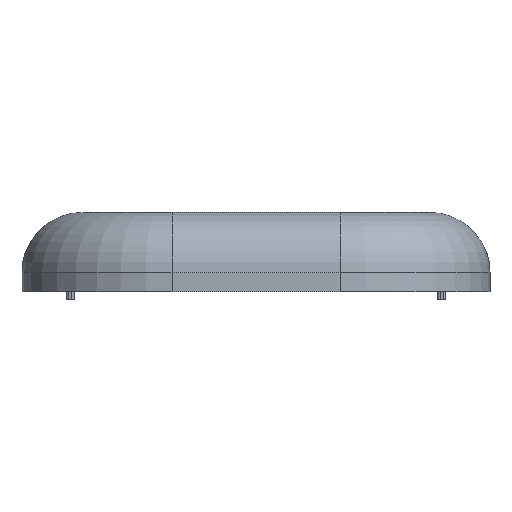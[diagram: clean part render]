
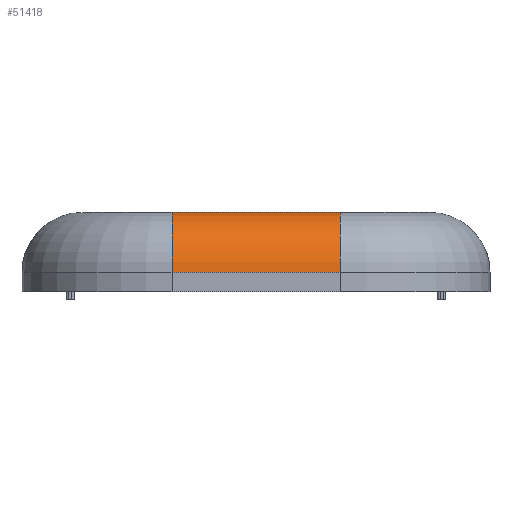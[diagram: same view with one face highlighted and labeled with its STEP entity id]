
A CAD part, front view. The second image highlights one B-rep face of the part: STEP entity #51418.
In plain terms, the highlighted cylindrical face has radius 10 mm (diameter 20 mm), a partial arc.
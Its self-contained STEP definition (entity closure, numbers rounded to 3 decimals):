
#39737 = VERTEX_POINT('',#39738);
#39738 = CARTESIAN_POINT('',(-14.,-75.,-10.));
#39754 = PLANE('',#39755);
#39755 = AXIS2_PLACEMENT_3D('',#39756,#39757,#39758);
#39756 = CARTESIAN_POINT('',(14.,-75.,0.));
#39757 = DIRECTION('',(0.,-1.,0.));
#39758 = DIRECTION('',(-1.,0.,0.));
#39781 = TOROIDAL_SURFACE('',#39782,15.,10.);
#39782 = AXIS2_PLACEMENT_3D('',#39783,#39784,#39785);
#39783 = CARTESIAN_POINT('',(-14.,-50.,-10.));
#39784 = DIRECTION('',(0.,0.,-1.));
#39785 = DIRECTION('',(-1.,0.,0.));
#39844 = EDGE_CURVE('',#39845,#39737,#39847,.T.);
#39845 = VERTEX_POINT('',#39846);
#39846 = CARTESIAN_POINT('',(-14.,-65.,0.));
#39847 = SURFACE_CURVE('',#39848,(#39853,#39860),.PCURVE_S1.);
#39848 = CIRCLE('',#39849,10.);
#39849 = AXIS2_PLACEMENT_3D('',#39850,#39851,#39852);
#39850 = CARTESIAN_POINT('',(-14.,-65.,-10.));
#39851 = DIRECTION('',(1.,0.,0.));
#39852 = DIRECTION('',(0.,0.,1.));
#39853 = PCURVE('',#39781,#39854);
#39854 = DEFINITIONAL_REPRESENTATION('',(#39855),#39859);
#39855 = LINE('',#39856,#39857);
#39856 = CARTESIAN_POINT('',(4.712,4.712));
#39857 = VECTOR('',#39858,1.);
#39858 = DIRECTION('',(0.,1.));
#39859 = ( GEOMETRIC_REPRESENTATION_CONTEXT(2) 
PARAMETRIC_REPRESENTATION_CONTEXT() REPRESENTATION_CONTEXT('2D SPACE',''
  ) );
#39860 = PCURVE('',#39861,#39866);
#39861 = CYLINDRICAL_SURFACE('',#39862,10.);
#39862 = AXIS2_PLACEMENT_3D('',#39863,#39864,#39865);
#39863 = CARTESIAN_POINT('',(7.,-65.,-10.));
#39864 = DIRECTION('',(-1.,0.,0.));
#39865 = DIRECTION('',(0.,-0.707,0.707));
#39866 = DEFINITIONAL_REPRESENTATION('',(#39867),#39871);
#39867 = LINE('',#39868,#39869);
#39868 = CARTESIAN_POINT('',(7.069,21.));
#39869 = VECTOR('',#39870,1.);
#39870 = DIRECTION('',(-1.,0.));
#39871 = ( GEOMETRIC_REPRESENTATION_CONTEXT(2) 
PARAMETRIC_REPRESENTATION_CONTEXT() REPRESENTATION_CONTEXT('2D SPACE',''
  ) );
#39888 = PLANE('',#39889);
#39889 = AXIS2_PLACEMENT_3D('',#39890,#39891,#39892);
#39890 = CARTESIAN_POINT('',(0.,0.,0.));
#39891 = DIRECTION('',(0.,0.,-1.));
#39892 = DIRECTION('',(-1.,0.,0.));
#39929 = VERTEX_POINT('',#39930);
#39930 = CARTESIAN_POINT('',(14.,-65.,0.));
#39945 = TOROIDAL_SURFACE('',#39946,15.,10.);
#39946 = AXIS2_PLACEMENT_3D('',#39947,#39948,#39949);
#39947 = CARTESIAN_POINT('',(14.,-50.,-10.));
#39948 = DIRECTION('',(0.,0.,-1.));
#39949 = DIRECTION('',(-1.,0.,0.));
#39957 = EDGE_CURVE('',#39929,#39845,#39958,.T.);
#39958 = SURFACE_CURVE('',#39959,(#39963,#39970),.PCURVE_S1.);
#39959 = LINE('',#39960,#39961);
#39960 = CARTESIAN_POINT('',(7.,-65.,0.));
#39961 = VECTOR('',#39962,1.);
#39962 = DIRECTION('',(-1.,0.,0.));
#39963 = PCURVE('',#39888,#39964);
#39964 = DEFINITIONAL_REPRESENTATION('',(#39965),#39969);
#39965 = LINE('',#39966,#39967);
#39966 = CARTESIAN_POINT('',(-7.,-65.));
#39967 = VECTOR('',#39968,1.);
#39968 = DIRECTION('',(1.,0.));
#39969 = ( GEOMETRIC_REPRESENTATION_CONTEXT(2) 
PARAMETRIC_REPRESENTATION_CONTEXT() REPRESENTATION_CONTEXT('2D SPACE',''
  ) );
#39970 = PCURVE('',#39861,#39971);
#39971 = DEFINITIONAL_REPRESENTATION('',(#39972),#39976);
#39972 = LINE('',#39973,#39974);
#39973 = CARTESIAN_POINT('',(7.069,0.));
#39974 = VECTOR('',#39975,1.);
#39975 = DIRECTION('',(0.,1.));
#39976 = ( GEOMETRIC_REPRESENTATION_CONTEXT(2) 
PARAMETRIC_REPRESENTATION_CONTEXT() REPRESENTATION_CONTEXT('2D SPACE',''
  ) );
#51139 = EDGE_CURVE('',#39929,#51140,#51142,.T.);
#51140 = VERTEX_POINT('',#51141);
#51141 = CARTESIAN_POINT('',(14.,-75.,-10.));
#51142 = SURFACE_CURVE('',#51143,(#51148,#51155),.PCURVE_S1.);
#51143 = CIRCLE('',#51144,10.);
#51144 = AXIS2_PLACEMENT_3D('',#51145,#51146,#51147);
#51145 = CARTESIAN_POINT('',(14.,-65.,-10.));
#51146 = DIRECTION('',(1.,0.,-0.));
#51147 = DIRECTION('',(0.,0.,1.));
#51148 = PCURVE('',#39945,#51149);
#51149 = DEFINITIONAL_REPRESENTATION('',(#51150),#51154);
#51150 = LINE('',#51151,#51152);
#51151 = CARTESIAN_POINT('',(4.712,4.712));
#51152 = VECTOR('',#51153,1.);
#51153 = DIRECTION('',(0.,1.));
#51154 = ( GEOMETRIC_REPRESENTATION_CONTEXT(2) 
PARAMETRIC_REPRESENTATION_CONTEXT() REPRESENTATION_CONTEXT('2D SPACE',''
  ) );
#51155 = PCURVE('',#39861,#51156);
#51156 = DEFINITIONAL_REPRESENTATION('',(#51157),#51161);
#51157 = LINE('',#51158,#51159);
#51158 = CARTESIAN_POINT('',(7.069,-7.));
#51159 = VECTOR('',#51160,1.);
#51160 = DIRECTION('',(-1.,0.));
#51161 = ( GEOMETRIC_REPRESENTATION_CONTEXT(2) 
PARAMETRIC_REPRESENTATION_CONTEXT() REPRESENTATION_CONTEXT('2D SPACE',''
  ) );
#51418 = ADVANCED_FACE('',(#51419),#39861,.T.);
#51419 = FACE_BOUND('',#51420,.T.);
#51420 = EDGE_LOOP('',(#51421,#51422,#51443,#51444));
#51421 = ORIENTED_EDGE('',*,*,#39844,.T.);
#51422 = ORIENTED_EDGE('',*,*,#51423,.T.);
#51423 = EDGE_CURVE('',#39737,#51140,#51424,.T.);
#51424 = SURFACE_CURVE('',#51425,(#51429,#51436),.PCURVE_S1.);
#51425 = LINE('',#51426,#51427);
#51426 = CARTESIAN_POINT('',(7.,-75.,-10.));
#51427 = VECTOR('',#51428,1.);
#51428 = DIRECTION('',(1.,0.,0.));
#51429 = PCURVE('',#39861,#51430);
#51430 = DEFINITIONAL_REPRESENTATION('',(#51431),#51435);
#51431 = LINE('',#51432,#51433);
#51432 = CARTESIAN_POINT('',(5.498,0.));
#51433 = VECTOR('',#51434,1.);
#51434 = DIRECTION('',(0.,-1.));
#51435 = ( GEOMETRIC_REPRESENTATION_CONTEXT(2) 
PARAMETRIC_REPRESENTATION_CONTEXT() REPRESENTATION_CONTEXT('2D SPACE',''
  ) );
#51436 = PCURVE('',#39754,#51437);
#51437 = DEFINITIONAL_REPRESENTATION('',(#51438),#51442);
#51438 = LINE('',#51439,#51440);
#51439 = CARTESIAN_POINT('',(7.,10.));
#51440 = VECTOR('',#51441,1.);
#51441 = DIRECTION('',(-1.,-0.));
#51442 = ( GEOMETRIC_REPRESENTATION_CONTEXT(2) 
PARAMETRIC_REPRESENTATION_CONTEXT() REPRESENTATION_CONTEXT('2D SPACE',''
  ) );
#51443 = ORIENTED_EDGE('',*,*,#51139,.F.);
#51444 = ORIENTED_EDGE('',*,*,#39957,.T.);
